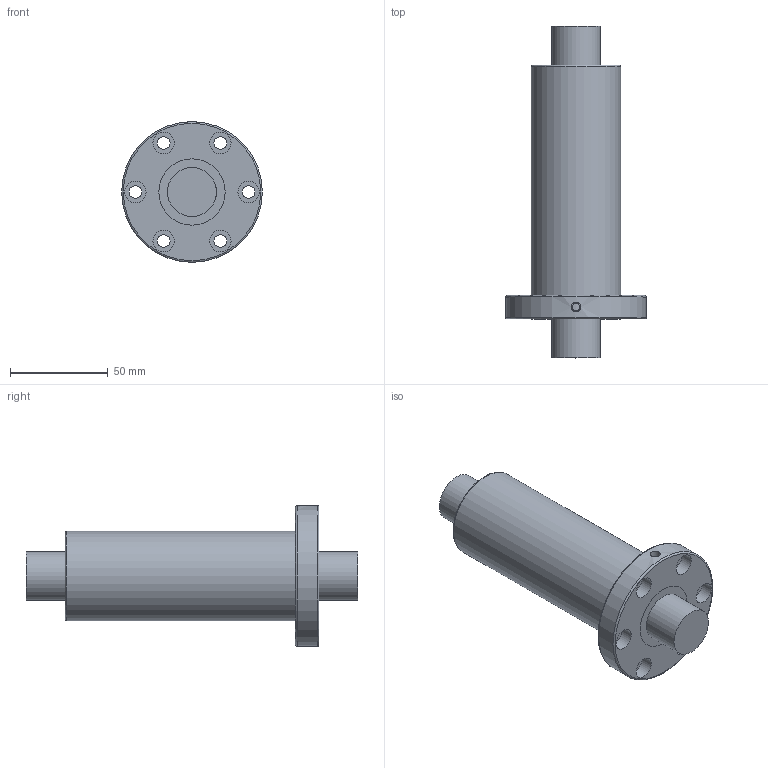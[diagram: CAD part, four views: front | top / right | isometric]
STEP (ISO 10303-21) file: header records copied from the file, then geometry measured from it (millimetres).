
FILE_DESCRIPTION(/* description */ (''),/* implementation_level */ '2;1');
FILE_NAME(/* name */ 'OFI02510-4.stp',/* time_stamp */ '2017-03-13T10:44:03+08:00',/* author */ (''),/* organization */ (''),/* preprocessor_version */ 'ST-DEVELOPER v11',/* originating_system */ 'SIEMENS UGS NX 6.0',/* authorisation */ '');
FILE_SCHEMA (('CONFIG_CONTROL_DESIGN'));
Length unit declared in the file: millimetre
Products named in the file (1): OFI02510-4
Bounding box: 72 x 170 x 72 mm (x, y, z)
Volume: 259388.1 mm3; surface area: 56741.5 mm2
Topology: 4 solids, 4 shells, 45 faces, 88 edges, 58 vertices
Faces by surface type: cylinder 24, plane 18, torus 3
Full cylindrical faces by diameter (mm): 4 x1, 5 x1, 6.5 x6, 11 x6, 25 x4, 34 x4, 46 x1, 72 x1
Entity records: 1232 total; most frequent: CARTESIAN_POINT 273, DIRECTION 196, ORIENTED_EDGE 112, EDGE_LOOP 100, FACE_BOUND 97, AXIS2_PLACEMENT_3D 97, EDGE_CURVE 56, VERTEX_POINT 54
